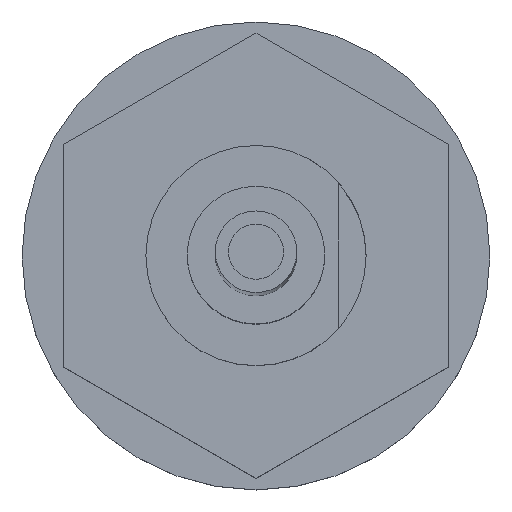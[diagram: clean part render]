
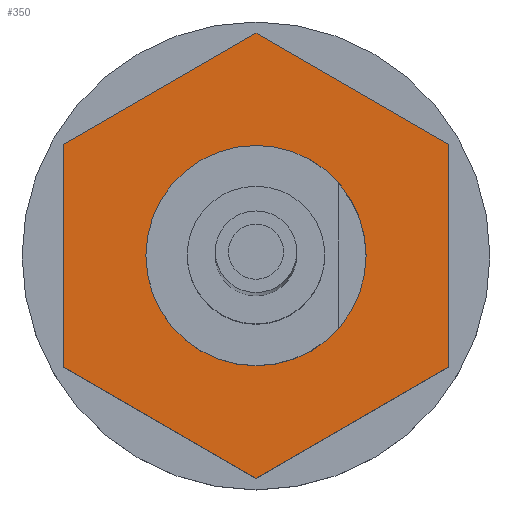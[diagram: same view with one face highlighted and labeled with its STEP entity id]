
A CAD part, top view. The second image highlights one B-rep face of the part: STEP entity #350.
In plain terms, the highlighted planar face has unit normal (0, 0, 1) as drawn and (-1, 0, 0) by its records, which use the part's own axes.
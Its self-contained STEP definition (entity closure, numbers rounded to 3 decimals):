
#350 = ADVANCED_FACE ( 'NONE', ( #1076, #1075 ), #1074, .T. ) ;
#351 = EDGE_LOOP ( 'NONE', ( #352, #356, #386, #389, #392, #451 ) ) ;
#352 = ORIENTED_EDGE ( 'NONE', *, *, #353, .T. ) ;
#353 = EDGE_CURVE ( 'NONE', #354, #355, #1069, .T. ) ;
#354 = VERTEX_POINT ( 'NONE', #1065 ) ;
#355 = VERTEX_POINT ( 'NONE', #1064 ) ;
#356 = ORIENTED_EDGE ( 'NONE', *, *, #384, .T. ) ;
#384 = EDGE_CURVE ( 'NONE', #355, #385, #1140, .T. ) ;
#385 = VERTEX_POINT ( 'NONE', #1136 ) ;
#386 = ORIENTED_EDGE ( 'NONE', *, *, #387, .T. ) ;
#387 = EDGE_CURVE ( 'NONE', #385, #388, #1135, .T. ) ;
#388 = VERTEX_POINT ( 'NONE', #1194 ) ;
#389 = ORIENTED_EDGE ( 'NONE', *, *, #390, .T. ) ;
#390 = EDGE_CURVE ( 'NONE', #388, #391, #1193, .T. ) ;
#391 = VERTEX_POINT ( 'NONE', #1189 ) ;
#392 = ORIENTED_EDGE ( 'NONE', *, *, #393, .T. ) ;
#393 = EDGE_CURVE ( 'NONE', #391, #450, #1188, .T. ) ;
#406 = EDGE_CURVE ( 'NONE', #407, #408, #1176, .T. ) ;
#407 = VERTEX_POINT ( 'NONE', #1167 ) ;
#408 = VERTEX_POINT ( 'NONE', #1166 ) ;
#450 = VERTEX_POINT ( 'NONE', #1291 ) ;
#451 = ORIENTED_EDGE ( 'NONE', *, *, #452, .T. ) ;
#452 = EDGE_CURVE ( 'NONE', #450, #354, #1290, .T. ) ;
#453 = EDGE_LOOP ( 'NONE', ( #454, #455 ) ) ;
#454 = ORIENTED_EDGE ( 'NONE', *, *, #406, .F. ) ;
#455 = ORIENTED_EDGE ( 'NONE', *, *, #456, .F. ) ;
#456 = EDGE_CURVE ( 'NONE', #408, #407, #1286, .T. ) ;
#1064 = CARTESIAN_POINT ( 'NONE',  ( 41.1, 0., -4.041 ) ) ;
#1065 = CARTESIAN_POINT ( 'NONE',  ( 41.1, 3.5, -2.021 ) ) ;
#1066 = DIRECTION ( 'NONE',  ( 0., -0.866, -0.5 ) ) ;
#1067 = VECTOR ( 'NONE', #1066, 1000. ) ;
#1068 = CARTESIAN_POINT ( 'NONE',  ( 41.1, 3.5, -2.021 ) ) ;
#1069 = LINE ( 'NONE', #1068, #1067 ) ;
#1070 = DIRECTION ( 'NONE',  ( 0., 0., 1. ) ) ;
#1071 = DIRECTION ( 'NONE',  ( -1., 0., 0. ) ) ;
#1072 = CARTESIAN_POINT ( 'NONE',  ( 41.1, 0., -4.041 ) ) ;
#1073 = AXIS2_PLACEMENT_3D ( 'NONE', #1072, #1071, #1070 ) ;
#1074 = PLANE ( 'NONE',  #1073 ) ;
#1075 = FACE_BOUND ( 'NONE', #453, .T. ) ;
#1076 = FACE_OUTER_BOUND ( 'NONE', #351, .T. ) ;
#1132 = DIRECTION ( 'NONE',  ( 0., 0., 1. ) ) ;
#1133 = VECTOR ( 'NONE', #1132, 1000. ) ;
#1134 = CARTESIAN_POINT ( 'NONE',  ( 41.1, -3.5, -2.021 ) ) ;
#1135 = LINE ( 'NONE', #1134, #1133 ) ;
#1136 = CARTESIAN_POINT ( 'NONE',  ( 41.1, -3.5, -2.021 ) ) ;
#1137 = DIRECTION ( 'NONE',  ( 0., -0.866, 0.5 ) ) ;
#1138 = VECTOR ( 'NONE', #1137, 1000. ) ;
#1139 = CARTESIAN_POINT ( 'NONE',  ( 41.1, 0., -4.041 ) ) ;
#1140 = LINE ( 'NONE', #1139, #1138 ) ;
#1166 = CARTESIAN_POINT ( 'NONE',  ( 41.1, 0., 2. ) ) ;
#1167 = CARTESIAN_POINT ( 'NONE',  ( 41.1, 0., -2. ) ) ;
#1168 = DIRECTION ( 'NONE',  ( 0., 0., 1. ) ) ;
#1169 = DIRECTION ( 'NONE',  ( -1., 0., 0. ) ) ;
#1170 = CARTESIAN_POINT ( 'NONE',  ( 41.1, 0., 0. ) ) ;
#1171 = AXIS2_PLACEMENT_3D ( 'NONE', #1170, #1169, #1168 ) ;
#1176 = CIRCLE ( 'NONE', #1171, 2. ) ;
#1185 = DIRECTION ( 'NONE',  ( 0., 0.866, -0.5 ) ) ;
#1186 = VECTOR ( 'NONE', #1185, 1000. ) ;
#1187 = CARTESIAN_POINT ( 'NONE',  ( 41.1, 0., 4.041 ) ) ;
#1188 = LINE ( 'NONE', #1187, #1186 ) ;
#1189 = CARTESIAN_POINT ( 'NONE',  ( 41.1, 0., 4.041 ) ) ;
#1190 = DIRECTION ( 'NONE',  ( 0., 0.866, 0.5 ) ) ;
#1191 = VECTOR ( 'NONE', #1190, 1000. ) ;
#1192 = CARTESIAN_POINT ( 'NONE',  ( 41.1, -3.5, 2.021 ) ) ;
#1193 = LINE ( 'NONE', #1192, #1191 ) ;
#1194 = CARTESIAN_POINT ( 'NONE',  ( 41.1, -3.5, 2.021 ) ) ;
#1282 = DIRECTION ( 'NONE',  ( 0., 0., 1. ) ) ;
#1283 = DIRECTION ( 'NONE',  ( -1., 0., 0. ) ) ;
#1284 = CARTESIAN_POINT ( 'NONE',  ( 41.1, 0., 0. ) ) ;
#1285 = AXIS2_PLACEMENT_3D ( 'NONE', #1284, #1283, #1282 ) ;
#1286 = CIRCLE ( 'NONE', #1285, 2. ) ;
#1287 = DIRECTION ( 'NONE',  ( 0., 0., -1. ) ) ;
#1288 = VECTOR ( 'NONE', #1287, 1000. ) ;
#1289 = CARTESIAN_POINT ( 'NONE',  ( 41.1, 3.5, 2.021 ) ) ;
#1290 = LINE ( 'NONE', #1289, #1288 ) ;
#1291 = CARTESIAN_POINT ( 'NONE',  ( 41.1, 3.5, 2.021 ) ) ;
